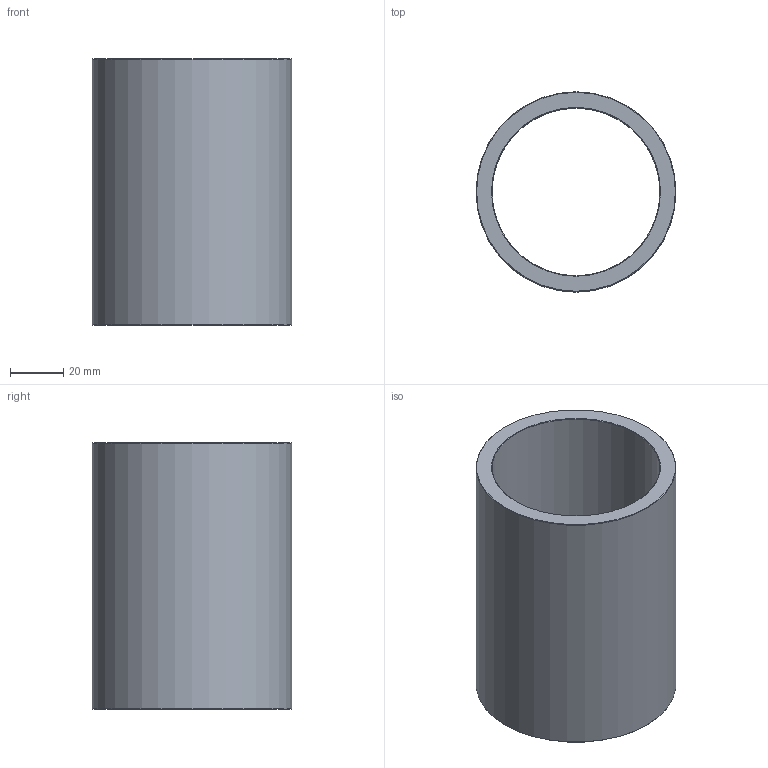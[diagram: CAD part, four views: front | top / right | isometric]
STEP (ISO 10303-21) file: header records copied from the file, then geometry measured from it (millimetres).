
FILE_DESCRIPTION(('STEP AP203'),'1');
FILE_NAME('C:/Users/Rodrigo/Desktop/GA6.063.100-1.step','2016-11-08T14:35:36',(' '),(' '),'Spatial InterOp 3D',' ',' ');
FILE_SCHEMA(('CONFIG_CONTROL_DESIGN'));
Length unit declared in the file: millimetre
Products named in the file (1): 1
Bounding box: 75 x 75 x 100 mm (x, y, z)
Volume: 130044.6 mm3; surface area: 45853.6 mm2
Topology: 1 solids, 1 shells, 8 faces, 14 edges, 8 vertices
Faces by surface type: cone 4, cylinder 2, plane 2
Full cylindrical faces by diameter (mm): 63 x1, 75 x1
Entity records: 212 total; most frequent: DIRECTION 34, CARTESIAN_POINT 25, AXIS2_PLACEMENT_3D 17, EDGE_LOOP 16, ORIENTED_EDGE 16, FACE_OUTER_BOUND 10, ADVANCED_FACE 8, EDGE_CURVE 8
